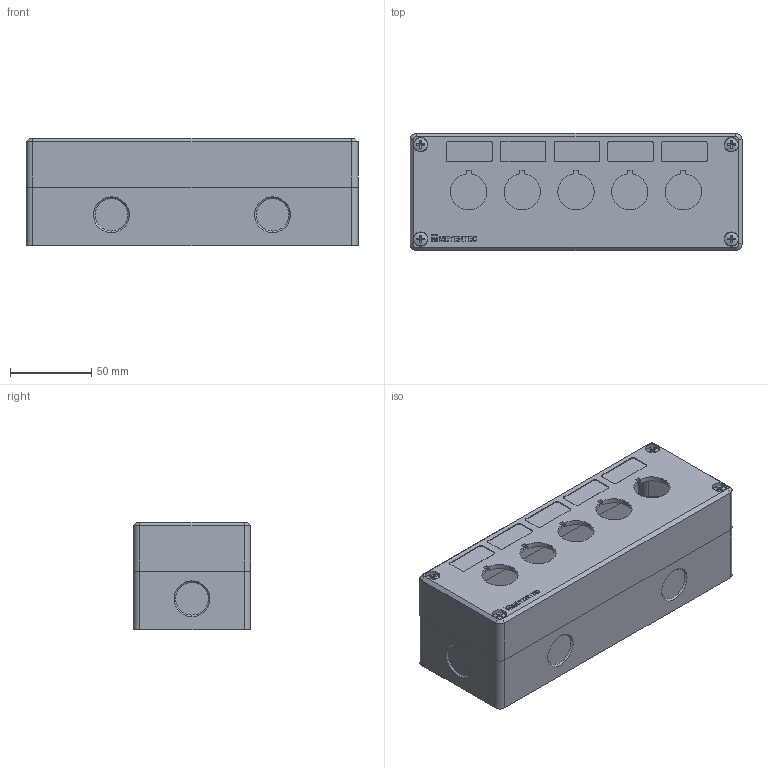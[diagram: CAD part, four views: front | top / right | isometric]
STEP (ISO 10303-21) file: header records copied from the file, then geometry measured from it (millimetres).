
FILE_DESCRIPTION (( 'STEP AP214' ), '1' );
FILE_NAME ('3D-斁麧錪 MTB2-PE5.STEP', '2020-06-23T12:50:58', ( '' ), ( '' ), 'SwSTEP 2.0', 'SolidWorks 2015', '' );
FILE_SCHEMA (( 'AUTOMOTIVE_DESIGN' ));
Length unit declared in the file: millimetre
Products named in the file (4): MTB2-PE5_瞂贂; MTB2-PE5_íèç; 3D-斁麧錪 MTB2-PE5; ISO 7047 - M4 x 40 - Z --- 40N_ISO 7047 - M4 x 40 - Z --- 40N
Assembly tree (6 placements, depth 2):
  3D-斁麧錪 MTB2-PE5
    MTB2-PE5_íèç
    MTB2-PE5_瞂贂
    ISO 7047 - M4 x 40 - Z --- 40N_ISO 7047 - M4 x 40 - Z --- 40N  x4
Bounding box: 204 x 72 x 66.02 mm (x, y, z)
Volume: 170741.2 mm3; surface area: 149940.9 mm2
Topology: 6 solids, 6 shells, 544 faces, 1428 edges, 935 vertices
Faces by surface type: plane 354, cylinder 124, cone 38, bspline 20, sphere 4, torus 4
Full cylindrical faces by diameter (mm): 3.8 x8, 4 x4, 7.8 x4, 8.4 x4, 8.8 x4
Entity records: 16842 total; most frequent: CARTESIAN_POINT 3737, ORIENTED_EDGE 2384, DIRECTION 2329, EDGE_CURVE 1192, VECTOR 863, LINE 863, VERTEX_POINT 805, AXIS2_PLACEMENT_3D 733
